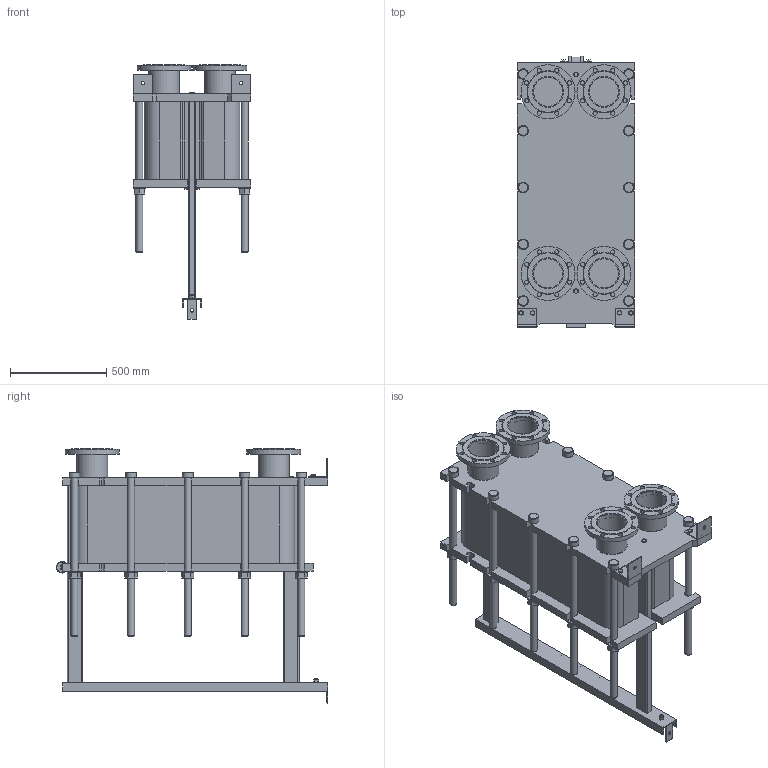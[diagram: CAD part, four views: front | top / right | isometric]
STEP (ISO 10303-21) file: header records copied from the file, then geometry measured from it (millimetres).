
FILE_DESCRIPTION(/* description */ (''),/* implementation_level */ '2;1');
FILE_NAME(/* name */ 'C:\Users\zhuro\Desktop\ENCO\TO\ЭН-041\ЭН-0,5-041-117-1.stp',/* time_stamp */ '2022-06-06T10:59:24+03:00',/* author */ ('zhuro'),/* organization */ (''),/* preprocessor_version */ 'ST-DEVELOPER v18.1',/* originating_system */ 'Autodesk Inventor 2022',/* authorisation */ '');
FILE_SCHEMA (('AUTOMOTIVE_DESIGN { 1 0 10303 214 3 1 1 }'));
Length unit declared in the file: millimetre
Products named in the file (1): ЭН-0,5-041-117-1
Bounding box: 610 x 1406.5 x 1317.5 mm (x, y, z)
Volume: 308695593 mm3; surface area: 9399347.2 mm2
Topology: 52 solids, 52 shells, 711 faces, 1696 edges, 1094 vertices
Faces by surface type: plane 487, cylinder 177, cone 41, torus 6
Full cylindrical faces by diameter (mm): 8 x4, 10 x2, 16 x8, 18 x3, 22 x32, 36 x24, 50 x1, 54 x10, 60 x12, 151 x4, 161 x8, 280 x4
Entity records: 22667 total; most frequent: CARTESIAN_POINT 5230, DIRECTION 3644, ORIENTED_EDGE 3392, EDGE_CURVE 1696, AXIS2_PLACEMENT_3D 1272, LINE 1100, VECTOR 1100, VERTEX_POINT 1094
